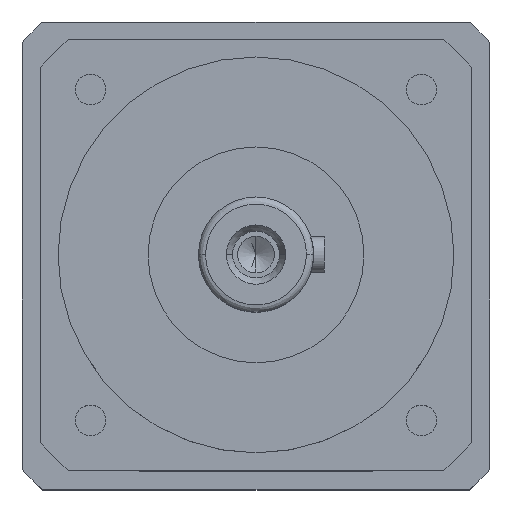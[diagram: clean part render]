
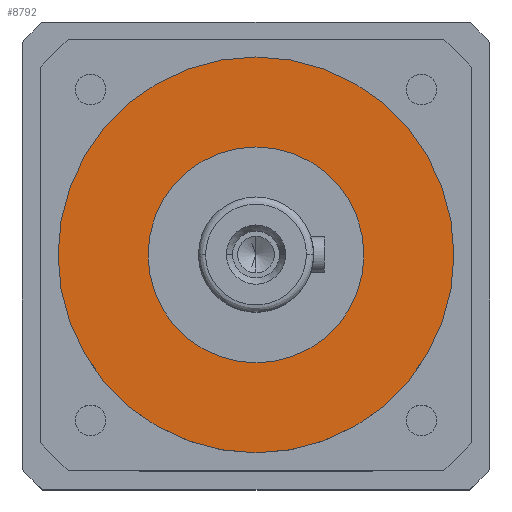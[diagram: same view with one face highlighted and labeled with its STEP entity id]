
A CAD part, top view. The second image highlights one B-rep face of the part: STEP entity #8792.
In plain terms, the highlighted planar face has unit normal (0, 0, 1).
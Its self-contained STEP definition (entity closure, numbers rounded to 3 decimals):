
#778 = DIRECTION ( 'NONE',  ( 0., 0., 1. ) ) ;
#1176 = CARTESIAN_POINT ( 'NONE',  ( 0., 0., -52. ) ) ;
#1302 = CARTESIAN_POINT ( 'NONE',  ( -30., 0., -52. ) ) ;
#4576 = DIRECTION ( 'NONE',  ( 1., 0., 0. ) ) ;
#5472 = AXIS2_PLACEMENT_3D ( 'NONE', #1176, #25079, #4576 ) ;
#7514 = VERTEX_POINT ( 'NONE', #25868 ) ;
#7890 = EDGE_CURVE ( 'NONE', #31797, #26985, #41734, .T. ) ;
#8792 = ADVANCED_FACE ( 'NONE', ( #28289, #36319 ), #40464, .F. ) ;
#9786 = DIRECTION ( 'NONE',  ( -1., 0., 0. ) ) ;
#10181 = DIRECTION ( 'NONE',  ( 0., 0., -1. ) ) ;
#11956 = AXIS2_PLACEMENT_3D ( 'NONE', #21270, #778, #24682 ) ;
#14165 = ORIENTED_EDGE ( 'NONE', *, *, #43246, .F. ) ;
#14486 = DIRECTION ( 'NONE',  ( 0., 0., 1. ) ) ;
#15140 = ORIENTED_EDGE ( 'NONE', *, *, #20989, .F. ) ;
#19486 = EDGE_CURVE ( 'NONE', #32218, #7514, #41485, .T. ) ;
#20363 = ORIENTED_EDGE ( 'NONE', *, *, #7890, .F. ) ;
#20989 = EDGE_CURVE ( 'NONE', #26985, #31797, #26904, .T. ) ;
#21269 = AXIS2_PLACEMENT_3D ( 'NONE', #34971, #14486, #38407 ) ;
#21270 = CARTESIAN_POINT ( 'NONE',  ( 0., 0., -52. ) ) ;
#24682 = DIRECTION ( 'NONE',  ( 1., 0., 0. ) ) ;
#25079 = DIRECTION ( 'NONE',  ( 0., 0., -1. ) ) ;
#25868 = CARTESIAN_POINT ( 'NONE',  ( 55., 0., -52. ) ) ;
#26675 = CARTESIAN_POINT ( 'NONE',  ( 0., 30., -52. ) ) ;
#26904 = CIRCLE ( 'NONE', #11956, 30. ) ;
#26985 = VERTEX_POINT ( 'NONE', #28809 ) ;
#28289 = FACE_OUTER_BOUND ( 'NONE', #28927, .T. ) ;
#28809 = CARTESIAN_POINT ( 'NONE',  ( 30., 0., -52. ) ) ;
#28927 = EDGE_LOOP ( 'NONE', ( #14165, #29371 ) ) ;
#29371 = ORIENTED_EDGE ( 'NONE', *, *, #19486, .F. ) ;
#30249 = DIRECTION ( 'NONE',  ( 0., 0., -1. ) ) ;
#30639 = CARTESIAN_POINT ( 'NONE',  ( 0., 0., -52. ) ) ;
#31797 = VERTEX_POINT ( 'NONE', #1302 ) ;
#32077 = CIRCLE ( 'NONE', #5472, 55. ) ;
#32218 = VERTEX_POINT ( 'NONE', #34625 ) ;
#34108 = DIRECTION ( 'NONE',  ( 1., 0., 0. ) ) ;
#34625 = CARTESIAN_POINT ( 'NONE',  ( -55., 0., -52. ) ) ;
#34971 = CARTESIAN_POINT ( 'NONE',  ( 0., 0., -52. ) ) ;
#35603 = AXIS2_PLACEMENT_3D ( 'NONE', #26675, #30249, #9786 ) ;
#36032 = EDGE_LOOP ( 'NONE', ( #15140, #20363 ) ) ;
#36319 = FACE_BOUND ( 'NONE', #36032, .T. ) ;
#38407 = DIRECTION ( 'NONE',  ( 1., 0., 0. ) ) ;
#40464 = PLANE ( 'NONE',  #35603 ) ;
#41446 = AXIS2_PLACEMENT_3D ( 'NONE', #30639, #10181, #34108 ) ;
#41485 = CIRCLE ( 'NONE', #41446, 55. ) ;
#41734 = CIRCLE ( 'NONE', #21269, 30. ) ;
#43246 = EDGE_CURVE ( 'NONE', #7514, #32218, #32077, .T. ) ;
